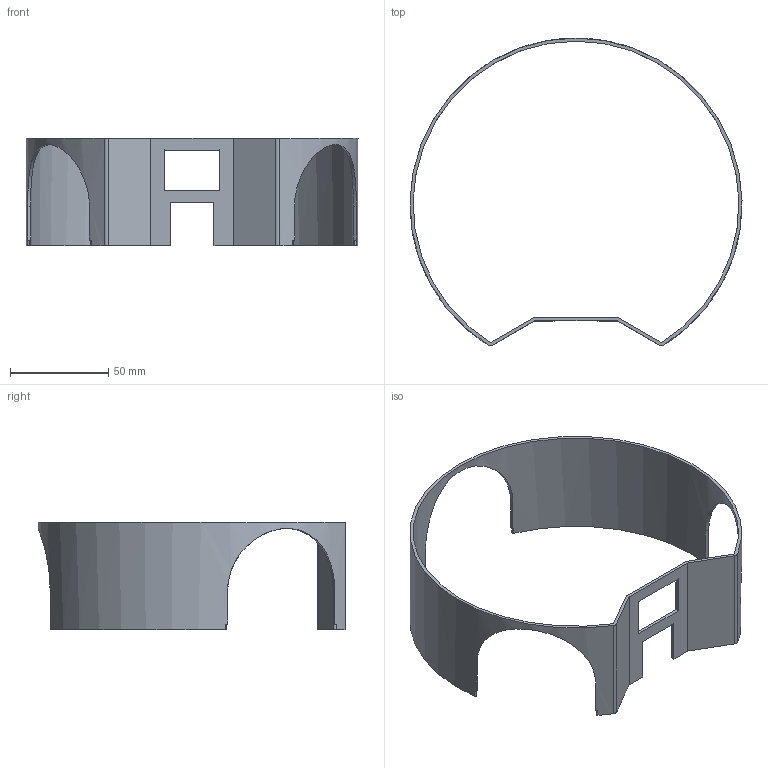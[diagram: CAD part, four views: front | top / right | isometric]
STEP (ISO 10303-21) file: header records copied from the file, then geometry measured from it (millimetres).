
FILE_DESCRIPTION(/* description */ (''),/* implementation_level */ '2;1');
FILE_NAME(/* name */ 'wall.step',/* time_stamp */ '2025-04-30T20:42:10+02:00',/* author */ (''),/* organization */ (''),/* preprocessor_version */ 'ST-DEVELOPER v20.1',/* originating_system */ 'Autodesk Translation Framework v14.4.0.0',/* authorisation */ '');
FILE_SCHEMA (('AUTOMOTIVE_DESIGN { 1 0 10303 214 3 1 1 }'));
Length unit declared in the file: millimetre
Products named in the file (1): futbalista 5
Bounding box: 169.17 x 156.78 x 55 mm (x, y, z)
Volume: 30872.7 mm3; surface area: 40925.4 mm2
Topology: 1 solids, 1 shells, 57 faces, 156 edges, 100 vertices
Faces by surface type: plane 35, cylinder 22
Entity records: 2026 total; most frequent: CARTESIAN_POINT 512, DIRECTION 322, ORIENTED_EDGE 312, EDGE_CURVE 156, AXIS2_PLACEMENT_3D 114, VERTEX_POINT 100, LINE 94, VECTOR 94
